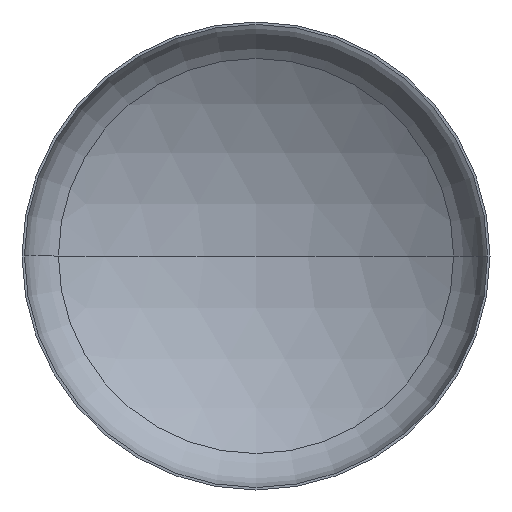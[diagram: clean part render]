
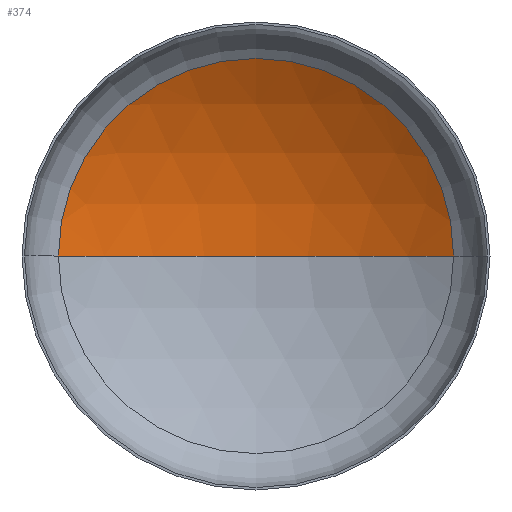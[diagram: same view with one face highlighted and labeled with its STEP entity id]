
A CAD part, front view. The second image highlights one B-rep face of the part: STEP entity #374.
In plain terms, the highlighted spherical face has radius 4400 mm.
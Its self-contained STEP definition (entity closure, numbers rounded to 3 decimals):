
#29 = CIRCLE ( 'NONE', #306, 2321.913 ) ;
#30 = VERTEX_POINT ( 'NONE', #291 ) ;
#34 = DIRECTION ( 'NONE',  ( 1., 0., 0. ) ) ;
#49 = ORIENTED_EDGE ( 'NONE', *, *, #87, .F. ) ;
#53 = VERTEX_POINT ( 'NONE', #222 ) ;
#64 = CARTESIAN_POINT ( 'NONE',  ( 0., -2929.71, 0. ) ) ;
#82 = EDGE_LOOP ( 'NONE', ( #49, #373, #409 ) ) ;
#83 = AXIS2_PLACEMENT_3D ( 'NONE', #355, #198, #271 ) ;
#87 = EDGE_CURVE ( 'NONE', #30, #93, #275, .T. ) ;
#93 = VERTEX_POINT ( 'NONE', #228 ) ;
#95 = DIRECTION ( 'NONE',  ( -1., 0., 0. ) ) ;
#102 = SPHERICAL_SURFACE ( 'NONE', #83, 4400. ) ;
#171 = AXIS2_PLACEMENT_3D ( 'NONE', #64, #297, #95 ) ;
#198 = DIRECTION ( 'NONE',  ( 0., 0., -1. ) ) ;
#208 = CIRCLE ( 'NONE', #171, 4400. ) ;
#215 = CARTESIAN_POINT ( 'NONE',  ( 0., -2929.71, 0. ) ) ;
#222 = CARTESIAN_POINT ( 'NONE',  ( 2321.913, 807.765, 0. ) ) ;
#228 = CARTESIAN_POINT ( 'NONE',  ( -2321.913, 807.765, 0. ) ) ;
#240 = DIRECTION ( 'NONE',  ( 0., -1., 0. ) ) ;
#251 = DIRECTION ( 'NONE',  ( 0., 0., 1. ) ) ;
#256 = DIRECTION ( 'NONE',  ( 1., 0., 0. ) ) ;
#271 = DIRECTION ( 'NONE',  ( -1., 0., 0. ) ) ;
#275 = CIRCLE ( 'NONE', #330, 4400. ) ;
#287 = FACE_OUTER_BOUND ( 'NONE', #82, .T. ) ;
#291 = CARTESIAN_POINT ( 'NONE',  ( 0., 1470.29, 0. ) ) ;
#297 = DIRECTION ( 'NONE',  ( 0., 0., -1. ) ) ;
#306 = AXIS2_PLACEMENT_3D ( 'NONE', #410, #240, #34 ) ;
#330 = AXIS2_PLACEMENT_3D ( 'NONE', #215, #251, #256 ) ;
#337 = EDGE_CURVE ( 'NONE', #30, #53, #208, .T. ) ;
#355 = CARTESIAN_POINT ( 'NONE',  ( 0., -2929.71, 0. ) ) ;
#356 = EDGE_CURVE ( 'NONE', #53, #93, #29, .T. ) ;
#373 = ORIENTED_EDGE ( 'NONE', *, *, #337, .T. ) ;
#374 = ADVANCED_FACE ( 'NONE', ( #287 ), #102, .F. ) ;
#409 = ORIENTED_EDGE ( 'NONE', *, *, #356, .T. ) ;
#410 = CARTESIAN_POINT ( 'NONE',  ( 0., 807.765, 0. ) ) ;
